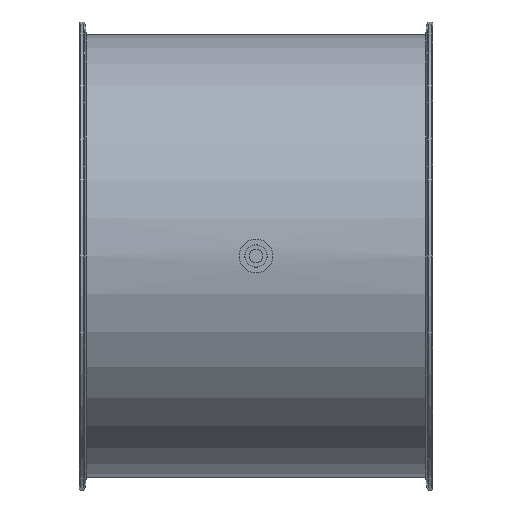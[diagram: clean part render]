
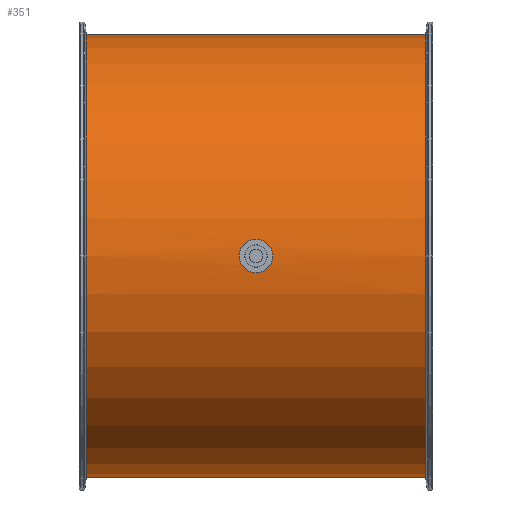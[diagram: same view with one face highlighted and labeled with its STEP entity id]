
A CAD part, front view. The second image highlights one B-rep face of the part: STEP entity #351.
In plain terms, the highlighted cylindrical face has radius 251 mm (diameter 502 mm), a full revolution.
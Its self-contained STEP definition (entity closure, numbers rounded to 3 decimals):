
#101=B_SPLINE_CURVE_WITH_KNOTS('',3,(#1739,#1740,#1741,#1742,#1743,#1744,
#1745,#1746,#1747,#1748,#1749,#1750,#1751,#1752,#1753,#1754,#1755,#1756),
 .UNSPECIFIED.,.T.,.F.,(2,2,2,2,2,2,2,2,2,2,2),(-0.125,0.,0.125,
0.25,0.375,0.5,0.625,
0.75,0.875,1.,1.125),.UNSPECIFIED.);
#102=B_SPLINE_CURVE_WITH_KNOTS('',3,(#1758,#1759,#1760,#1761,#1762,#1763,
#1764,#1765,#1766,#1767,#1768,#1769,#1770,#1771,#1772,#1773,#1774,#1775),
 .UNSPECIFIED.,.T.,.F.,(2,2,2,2,2,2,2,2,2,2,2),(-0.125,0.,0.125,
0.25,0.375,0.5,0.625,
0.75,0.875,1.,1.125),.UNSPECIFIED.);
#153=FACE_BOUND('',#515,.T.);
#154=FACE_BOUND('',#516,.T.);
#155=FACE_BOUND('',#517,.T.);
#156=FACE_BOUND('',#518,.T.);
#241=CYLINDRICAL_SURFACE('',#1212,251.);
#284=CIRCLE('',#1207,251.);
#286=CIRCLE('',#1210,251.);
#351=ADVANCED_FACE('',(#153,#154,#155,#156),#241,.T.);
#515=EDGE_LOOP('',(#673));
#516=EDGE_LOOP('',(#674));
#517=EDGE_LOOP('',(#675));
#518=EDGE_LOOP('',(#676));
#673=ORIENTED_EDGE('',*,*,#984,.F.);
#674=ORIENTED_EDGE('',*,*,#986,.F.);
#675=ORIENTED_EDGE('',*,*,#987,.F.);
#676=ORIENTED_EDGE('',*,*,#988,.F.);
#886=VERTEX_POINT('',#1732);
#888=VERTEX_POINT('',#1737);
#889=VERTEX_POINT('',#1757);
#890=VERTEX_POINT('',#1776);
#984=EDGE_CURVE('',#886,#886,#284,.T.);
#986=EDGE_CURVE('',#888,#888,#286,.T.);
#987=EDGE_CURVE('',#889,#889,#101,.T.);
#988=EDGE_CURVE('',#890,#890,#102,.T.);
#1207=AXIS2_PLACEMENT_3D('',#1731,#1394,#1395);
#1210=AXIS2_PLACEMENT_3D('',#1736,#1400,#1401);
#1212=AXIS2_PLACEMENT_3D('',#1777,#1404,#1405);
#1394=DIRECTION('',(1.,0.,0.));
#1395=DIRECTION('',(0.,0.,-1.));
#1400=DIRECTION('',(-1.,0.,0.));
#1401=DIRECTION('',(0.,0.,1.));
#1404=DIRECTION('',(1.,0.,0.));
#1405=DIRECTION('',(0.,0.,-1.));
#1731=CARTESIAN_POINT('',(192.133,-109.,125.));
#1732=CARTESIAN_POINT('',(192.133,-109.,-126.));
#1736=CARTESIAN_POINT('',(-192.133,-109.,125.));
#1737=CARTESIAN_POINT('',(-192.133,-109.,376.));
#1739=CARTESIAN_POINT('',(3.436,141.663,112.));
#1740=CARTESIAN_POINT('',(-3.436,141.663,112.));
#1741=CARTESIAN_POINT('',(-6.795,141.744,113.41));
#1742=CARTESIAN_POINT('',(-11.591,141.92,118.207));
#1743=CARTESIAN_POINT('',(-12.998,142.,121.601));
#1744=CARTESIAN_POINT('',(-13.002,142.,128.385));
#1745=CARTESIAN_POINT('',(-11.623,141.921,131.76));
#1746=CARTESIAN_POINT('',(-6.771,141.743,136.616));
#1747=CARTESIAN_POINT('',(-3.398,141.663,137.999));
#1748=CARTESIAN_POINT('',(3.389,141.663,138.001));
#1749=CARTESIAN_POINT('',(6.784,141.743,136.596));
#1750=CARTESIAN_POINT('',(11.583,141.919,131.806));
#1751=CARTESIAN_POINT('',(12.997,142.,128.444));
#1752=CARTESIAN_POINT('',(13.003,142.,121.583));
#1753=CARTESIAN_POINT('',(11.597,141.92,118.216));
#1754=CARTESIAN_POINT('',(6.802,141.744,113.413));
#1755=CARTESIAN_POINT('',(3.436,141.663,112.));
#1756=CARTESIAN_POINT('',(-3.436,141.663,112.));
#1757=CARTESIAN_POINT('',(0.,141.663,112.));
#1758=CARTESIAN_POINT('',(-3.436,-359.663,112.));
#1759=CARTESIAN_POINT('',(3.436,-359.663,112.));
#1760=CARTESIAN_POINT('',(6.795,-359.744,113.41));
#1761=CARTESIAN_POINT('',(11.591,-359.92,118.207));
#1762=CARTESIAN_POINT('',(12.998,-360.,121.601));
#1763=CARTESIAN_POINT('',(13.002,-360.,128.385));
#1764=CARTESIAN_POINT('',(11.623,-359.921,131.76));
#1765=CARTESIAN_POINT('',(6.771,-359.743,136.616));
#1766=CARTESIAN_POINT('',(3.398,-359.663,137.999));
#1767=CARTESIAN_POINT('',(-3.389,-359.663,138.001));
#1768=CARTESIAN_POINT('',(-6.784,-359.743,136.596));
#1769=CARTESIAN_POINT('',(-11.583,-359.919,131.806));
#1770=CARTESIAN_POINT('',(-12.997,-360.,128.444));
#1771=CARTESIAN_POINT('',(-13.003,-360.,121.583));
#1772=CARTESIAN_POINT('',(-11.597,-359.92,118.216));
#1773=CARTESIAN_POINT('',(-6.802,-359.744,113.413));
#1774=CARTESIAN_POINT('',(-3.436,-359.663,112.));
#1775=CARTESIAN_POINT('',(3.436,-359.663,112.));
#1776=CARTESIAN_POINT('',(0.,-359.663,112.));
#1777=CARTESIAN_POINT('',(-200.,-109.,125.));
